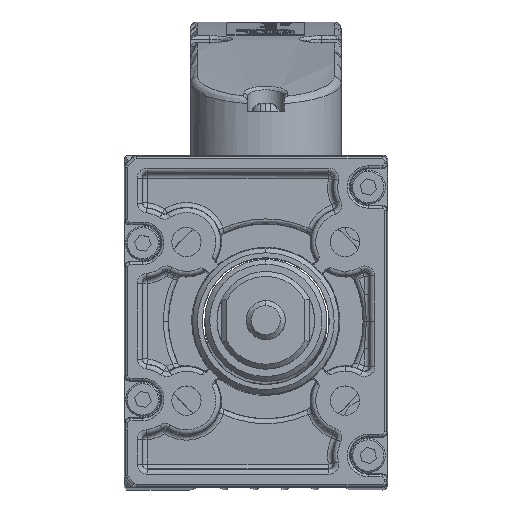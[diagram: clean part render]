
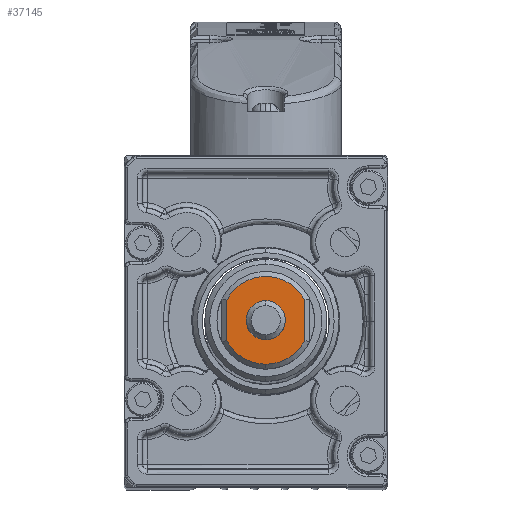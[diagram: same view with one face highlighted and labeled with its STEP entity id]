
A CAD part, top view. The second image highlights one B-rep face of the part: STEP entity #37145.
In plain terms, the highlighted planar face has unit normal (0, 0, 1) as drawn and (0, 0, -1) by its records, which use the part's own axes.
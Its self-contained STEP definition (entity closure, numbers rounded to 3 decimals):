
#2644 = AXIS2_PLACEMENT_3D ( 'NONE', #65009, #65016, #65017 ) ;
#11680 = LINE ( 'NONE', #11681, #12802 ) ;
#11681 = CARTESIAN_POINT ( 'NONE',  ( 4.359, 8., -520. ) ) ;
#11687 = LINE ( 'NONE', #11688, #12801 ) ;
#11688 = CARTESIAN_POINT ( 'NONE',  ( -4.359, -8., -520. ) ) ;
#11689 = CARTESIAN_POINT ( 'NONE',  ( 0., 0., -520. ) ) ;
#11690 = DIRECTION ( 'NONE',  ( 0., 0., -1. ) ) ;
#11691 = DIRECTION ( 'NONE',  ( -1., 0., 0. ) ) ;
#11692 = DIRECTION ( 'NONE',  ( 1., 0., 0. ) ) ;
#11693 = CARTESIAN_POINT ( 'NONE',  ( 0., 0., -520. ) ) ;
#11694 = DIRECTION ( 'NONE',  ( 0., 0., -1. ) ) ;
#11695 = DIRECTION ( 'NONE',  ( -1., 0., 0. ) ) ;
#11696 = DIRECTION ( 'NONE',  ( -1., 0., 0. ) ) ;
#11697 = CARTESIAN_POINT ( 'NONE',  ( 0., 0., -520. ) ) ;
#11698 = DIRECTION ( 'NONE',  ( 0., 0., 1. ) ) ;
#11699 = DIRECTION ( 'NONE',  ( 1., 0., 0. ) ) ;
#12640 = CIRCLE ( 'NONE', #12819, 4. ) ;
#12665 = AXIS2_PLACEMENT_3D ( 'NONE', #11693, #11694, #11695 ) ;
#12689 = AXIS2_PLACEMENT_3D ( 'NONE', #66400, #66401, #66402 ) ;
#12731 = CIRCLE ( 'NONE', #12689, 4. ) ;
#12756 = CIRCLE ( 'NONE', #12788, 9. ) ;
#12768 = CIRCLE ( 'NONE', #12665, 9. ) ;
#12776 = CIRCLE ( 'NONE', #12833, 9. ) ;
#12788 = AXIS2_PLACEMENT_3D ( 'NONE', #66346, #66347, #66348 ) ;
#12801 = VECTOR ( 'NONE', #11696, 1000. ) ;
#12802 = VECTOR ( 'NONE', #11692, 1000. ) ;
#12819 = AXIS2_PLACEMENT_3D ( 'NONE', #11697, #11698, #11699 ) ;
#12833 = AXIS2_PLACEMENT_3D ( 'NONE', #11689, #11690, #11691 ) ;
#24294 = CARTESIAN_POINT ( 'NONE',  ( 9., 0., -520. ) ) ;
#24304 = CARTESIAN_POINT ( 'NONE',  ( 4.123, -8., -520. ) ) ;
#24518 = CARTESIAN_POINT ( 'NONE',  ( 4.123, 8., -520. ) ) ;
#24547 = CARTESIAN_POINT ( 'NONE',  ( -4.123, -8., -520. ) ) ;
#24554 = CARTESIAN_POINT ( 'NONE',  ( -4.123, 8., -520. ) ) ;
#24982 = CARTESIAN_POINT ( 'NONE',  ( 4., 0., -520. ) ) ;
#30025 = CARTESIAN_POINT ( 'NONE',  ( -4., 0., -520. ) ) ;
#35552 = EDGE_CURVE ( 'NONE', #47642, #47652, #12756, .T. ) ;
#35569 = EDGE_CURVE ( 'NONE', #48308, #47462, #12731, .T. ) ;
#35619 = EDGE_CURVE ( 'NONE', #47886, #47893, #12776, .T. ) ;
#35620 = EDGE_CURVE ( 'NONE', #47893, #47857, #11680, .T. ) ;
#35621 = EDGE_CURVE ( 'NONE', #47857, #47642, #12768, .T. ) ;
#35622 = EDGE_CURVE ( 'NONE', #47652, #47886, #11687, .T. ) ;
#35623 = EDGE_CURVE ( 'NONE', #47462, #48308, #12640, .T. ) ;
#37145 = ADVANCED_FACE ( 'NONE', ( #65010, #65014 ), #65015, .T. ) ;
#47462 = VERTEX_POINT ( 'NONE', #30025 ) ;
#47642 = VERTEX_POINT ( 'NONE', #24294 ) ;
#47652 = VERTEX_POINT ( 'NONE', #24304 ) ;
#47857 = VERTEX_POINT ( 'NONE', #24518 ) ;
#47886 = VERTEX_POINT ( 'NONE', #24547 ) ;
#47893 = VERTEX_POINT ( 'NONE', #24554 ) ;
#48308 = VERTEX_POINT ( 'NONE', #24982 ) ;
#51399 = EDGE_LOOP ( 'NONE', ( #74071, #74070, #74068, #74067, #74065 ) ) ;
#51414 = EDGE_LOOP ( 'NONE', ( #74064, #74063 ) ) ;
#65009 = CARTESIAN_POINT ( 'NONE',  ( 10., 0., -520. ) ) ;
#65010 = FACE_OUTER_BOUND ( 'NONE', #51399, .T. ) ;
#65014 = FACE_BOUND ( 'NONE', #51414, .T. ) ;
#65015 = PLANE ( 'NONE',  #2644 ) ;
#65016 = DIRECTION ( 'NONE',  ( 0., 0., -1. ) ) ;
#65017 = DIRECTION ( 'NONE',  ( -1., 0., 0. ) ) ;
#66346 = CARTESIAN_POINT ( 'NONE',  ( 0., 0., -520. ) ) ;
#66347 = DIRECTION ( 'NONE',  ( 0., 0., -1. ) ) ;
#66348 = DIRECTION ( 'NONE',  ( -1., 0., 0. ) ) ;
#66400 = CARTESIAN_POINT ( 'NONE',  ( 0., 0., -520. ) ) ;
#66401 = DIRECTION ( 'NONE',  ( 0., 0., 1. ) ) ;
#66402 = DIRECTION ( 'NONE',  ( 1., 0., 0. ) ) ;
#74063 = ORIENTED_EDGE ( 'NONE', *, *, #35623, .T. ) ;
#74064 = ORIENTED_EDGE ( 'NONE', *, *, #35569, .T. ) ;
#74065 = ORIENTED_EDGE ( 'NONE', *, *, #35622, .T. ) ;
#74067 = ORIENTED_EDGE ( 'NONE', *, *, #35552, .T. ) ;
#74068 = ORIENTED_EDGE ( 'NONE', *, *, #35621, .T. ) ;
#74070 = ORIENTED_EDGE ( 'NONE', *, *, #35620, .T. ) ;
#74071 = ORIENTED_EDGE ( 'NONE', *, *, #35619, .T. ) ;
